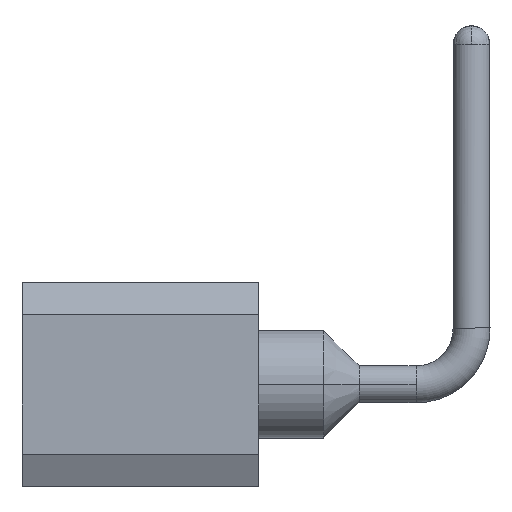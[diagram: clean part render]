
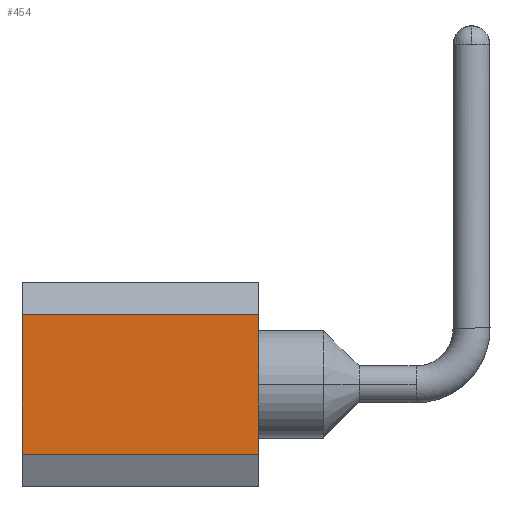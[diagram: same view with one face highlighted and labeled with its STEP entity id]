
A CAD part, left-side view. The second image highlights one B-rep face of the part: STEP entity #454.
In plain terms, the highlighted planar face has unit normal (-1, 0, 0).
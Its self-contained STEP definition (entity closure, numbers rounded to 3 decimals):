
#454=ADVANCED_FACE('',(#1260),#1261,.T.);
#1260=FACE_OUTER_BOUND('',#2080,.T.);
#1261=PLANE('',#2081);
#2080=EDGE_LOOP('',(#4783,#4784,#4785,#4786));
#2081=AXIS2_PLACEMENT_3D('',#4787,#4788,#4789);
#4783=ORIENTED_EDGE('',*,*,#5595,.T.);
#4784=ORIENTED_EDGE('',*,*,#5722,.F.);
#4785=ORIENTED_EDGE('',*,*,#5723,.F.);
#4786=ORIENTED_EDGE('',*,*,#5719,.T.);
#4787=CARTESIAN_POINT('',(-10.16,0.,0.87));
#4788=DIRECTION('',(-1.0,0.0,0.0));
#4789=DIRECTION('',(0.0,0.0,1.0));
#5595=EDGE_CURVE('',#6826,#6824,#6827,.T.);
#5719=EDGE_CURVE('',#7025,#6826,#7026,.T.);
#5722=EDGE_CURVE('',#7030,#6824,#7031,.T.);
#5723=EDGE_CURVE('',#7025,#7030,#7032,.T.);
#6824=VERTEX_POINT('',#8430);
#6826=VERTEX_POINT('',#8433);
#6827=LINE('',#8434,#8435);
#7025=VERTEX_POINT('',#8756);
#7026=LINE('',#8757,#8758);
#7030=VERTEX_POINT('',#8764);
#7031=LINE('',#8765,#8766);
#7032=LINE('',#8767,#8768);
#8430=CARTESIAN_POINT('',(-10.16,2.95,-0.87));
#8433=CARTESIAN_POINT('',(-10.16,2.95,0.87));
#8434=CARTESIAN_POINT('',(-10.16,2.95,0.87));
#8435=VECTOR('',#10259,1.0);
#8756=CARTESIAN_POINT('',(-10.16,0.,0.87));
#8757=CARTESIAN_POINT('',(-10.16,0.,0.87));
#8758=VECTOR('',#10383,1.0);
#8764=CARTESIAN_POINT('',(-10.16,0.,-0.87));
#8765=CARTESIAN_POINT('',(-10.16,0.,-0.87));
#8766=VECTOR('',#10386,1.0);
#8767=CARTESIAN_POINT('',(-10.16,0.,0.87));
#8768=VECTOR('',#10387,1.0);
#10259=DIRECTION('',(0.0,0.,-1.0));
#10383=DIRECTION('',(0.0,1.0,0.));
#10386=DIRECTION('',(0.0,1.0,0.));
#10387=DIRECTION('',(0.0,0.,-1.0));
